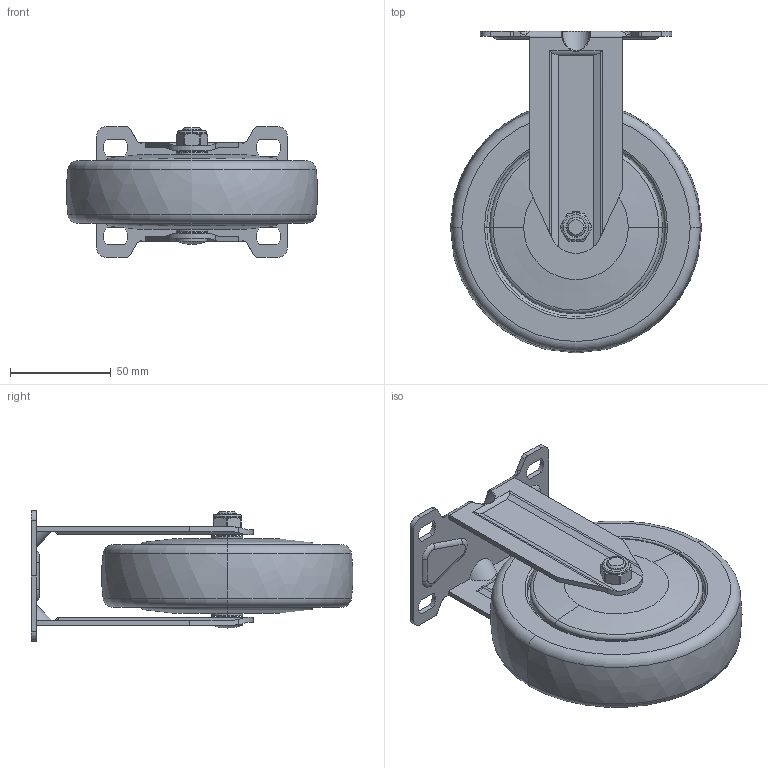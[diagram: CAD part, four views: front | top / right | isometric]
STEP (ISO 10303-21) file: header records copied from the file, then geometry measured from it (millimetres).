
FILE_DESCRIPTION((''),'2;1');
FILE_NAME('57205-575-77_ASM','2021-01-05T',('lenovo'),(''),'PRO/ENGINEER BY PARAMETRIC TECHNOLOGY CORPORATION, 2010280','PRO/ENGINEER BY PARAMETRIC TECHNOLOGY CORPORATION, 2010280','');
FILE_SCHEMA(('CONFIG_CONTROL_DESIGN'));
Length unit declared in the file: millimetre
Products named in the file (5): 5725-301; 575-77; 5710-020; 5710-031; 57205-575-77_ASM
Assembly tree (4 placements, depth 2):
  57205-575-77_ASM
    5725-301
    575-77
    5710-020
    5710-031
Bounding box: 124.86 x 159.93 x 65 mm (x, y, z)
Volume: 434243.1 mm3; surface area: 74901.9 mm2
Topology: 4 solids, 4 shells, 247 faces, 618 edges, 387 vertices
Faces by surface type: cylinder 80, plane 79, torus 34, bspline 30, cone 22, sphere 2
Entity records: 9490 total; most frequent: CARTESIAN_POINT 3600, ORIENTED_EDGE 1232, DIRECTION 1194, EDGE_CURVE 616, AXIS2_PLACEMENT_3D 468, VERTEX_POINT 387, EDGE_LOOP 271, VECTOR 258
